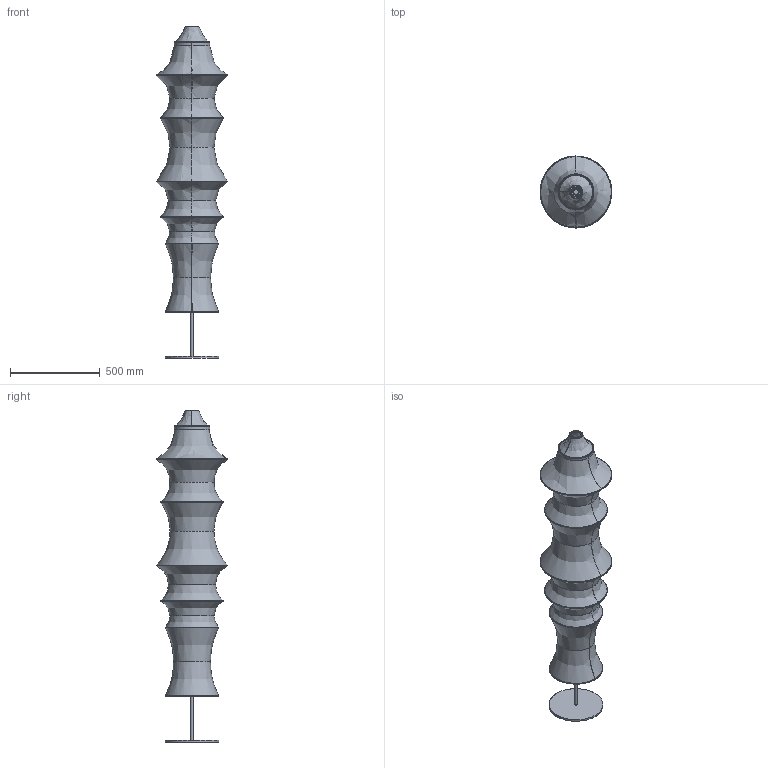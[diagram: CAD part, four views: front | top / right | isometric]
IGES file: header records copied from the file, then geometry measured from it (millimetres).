
Global section: file name: /Users/carolinacolombo/Desktop/Danese/Sito/3D mancanti/Falkland_floor/Falkland_floor.igs; native system: Rhinoceros ( Dec  3 2024 ); preprocessor: Trout Lake IGES 012 Dec  3 2024; date: 261005.145708; units: millimetre
Bounding box: 399.71 x 400 x 1847.86 mm (x, y, z)
Surface area: 3301550.8 mm2 (no closed solid volume)
Topology: 0 solids, 0 shells, 263 faces, 1354 edges, 1332 vertices
Faces by surface type: bspline 263
